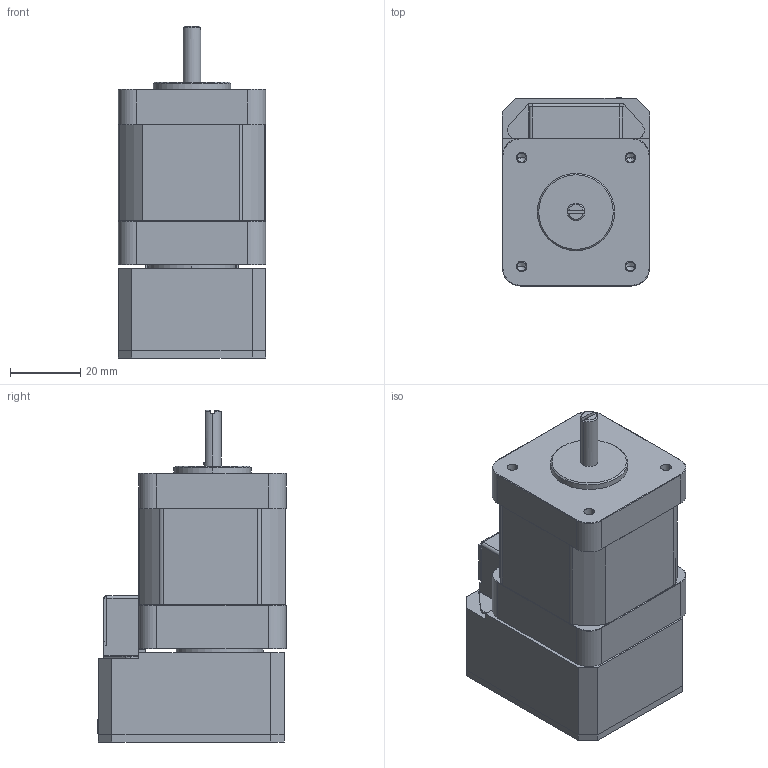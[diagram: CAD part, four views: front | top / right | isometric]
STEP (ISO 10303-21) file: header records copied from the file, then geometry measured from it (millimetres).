
FILE_DESCRIPTION (( 'STEP AP203' ), '1' );
FILE_NAME ('CM1-X-17L30.STEP', '2010-05-17T13:46:22', ( 'render' ), ( '' ), 'SwSTEP 2.0', 'SolidWorks 2009', '' );
FILE_SCHEMA (( 'CONFIG_CONTROL_DESIGN' ));
Length unit declared in the file: millimetre
Products named in the file (1): CM1-X-17L30
Bounding box: 42.03 x 53.68 x 94.71 mm (x, y, z)
Volume: 112111.6 mm3; surface area: 42807.4 mm2
Topology: 8 solids, 8 shells, 760 faces, 1962 edges, 1244 vertices
Faces by surface type: plane 566, cylinder 171, cone 13, torus 8, bspline 2
Entity records: 22906 total; most frequent: CARTESIAN_POINT 4131, ORIENTED_EDGE 3908, DIRECTION 3789, EDGE_CURVE 1954, LINE 1577, VECTOR 1577, VERTEX_POINT 1244, AXIS2_PLACEMENT_3D 1106
